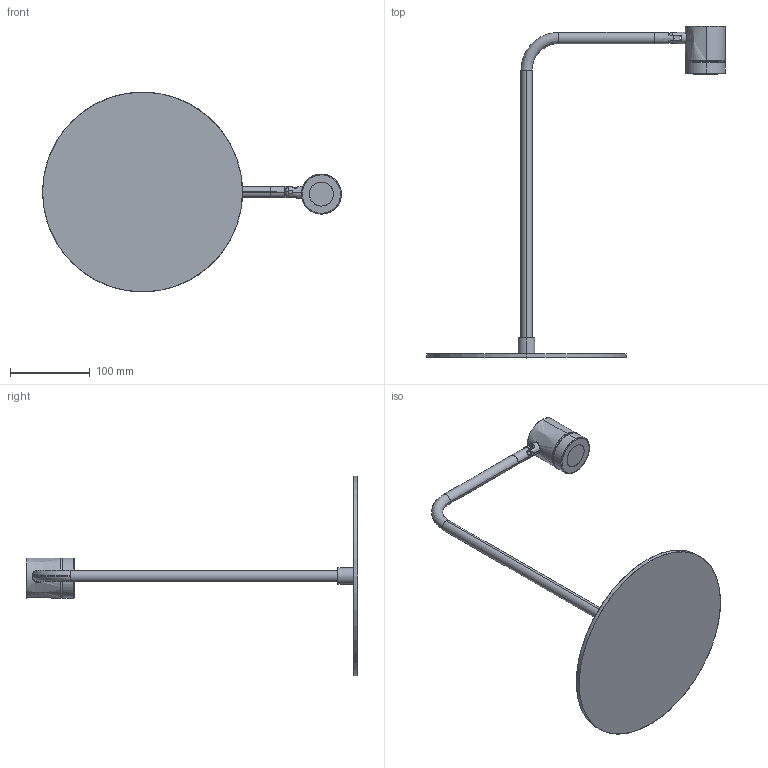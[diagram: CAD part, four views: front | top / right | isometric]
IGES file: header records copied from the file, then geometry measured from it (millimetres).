
Start section: SolidWorks IGES file using analytic representation for surfaces
Global section: file name: C:\Users\Agustin\Desktop\ENERO 2025\2D-3D\2D-3D TEA_1337\TEA_S1337\TEA_S1337.IGS; native system: SolidWorks 2018; preprocessor: SolidWorks 2018; author: Agustin; date: 250117.153655; units: millimetre
Bounding box: 373.69 x 415.11 x 250 mm (x, y, z)
Surface area: 155228.5 mm2 (no closed solid volume)
Topology: 0 solids, 0 shells, 75 faces, 1874 edges, 1874 vertices
Faces by surface type: bspline 40, revolution 35
